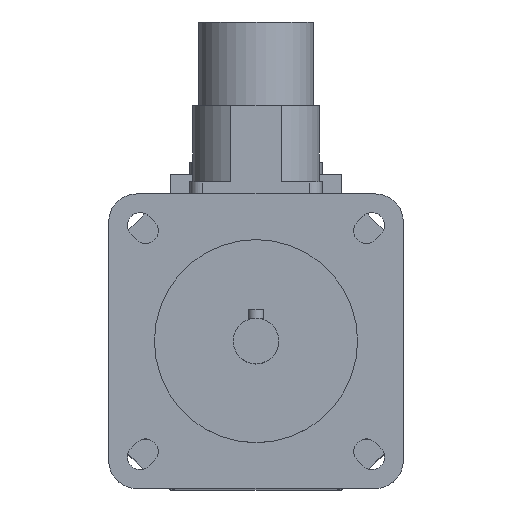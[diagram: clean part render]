
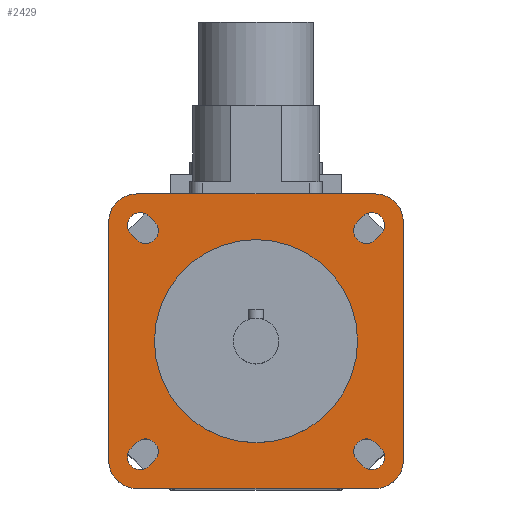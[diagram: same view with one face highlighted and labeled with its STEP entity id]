
A CAD part, top view. The second image highlights one B-rep face of the part: STEP entity #2429.
In plain terms, the highlighted planar face has unit normal (0, 0, 1).
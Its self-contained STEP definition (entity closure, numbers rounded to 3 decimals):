
#28=FACE_BOUND('',#427,.T.);
#29=FACE_BOUND('',#428,.T.);
#30=FACE_BOUND('',#429,.T.);
#31=FACE_BOUND('',#430,.T.);
#32=FACE_BOUND('',#431,.T.);
#47=CIRCLE('',#2525,20.);
#84=CIRCLE('',#2589,2.5);
#88=CIRCLE('',#2596,2.5);
#89=CIRCLE('',#2599,2.5);
#90=CIRCLE('',#2602,2.5);
#100=CIRCLE('',#2617,2.5);
#101=CIRCLE('',#2620,2.5);
#102=CIRCLE('',#2623,2.5);
#103=CIRCLE('',#2626,2.5);
#104=CIRCLE('',#2628,5.5);
#105=CIRCLE('',#2630,5.5);
#106=CIRCLE('',#2632,5.5);
#107=CIRCLE('',#2634,5.5);
#282=FACE_OUTER_BOUND('',#426,.T.);
#426=EDGE_LOOP('',(#1862,#1863,#1864,#1865,#1866,#1867,#1868,#1869));
#427=EDGE_LOOP('',(#1870));
#428=EDGE_LOOP('',(#1871,#1872,#1873,#1874));
#429=EDGE_LOOP('',(#1875,#1876,#1877,#1878));
#430=EDGE_LOOP('',(#1879,#1880,#1881,#1882));
#431=EDGE_LOOP('',(#1883,#1884,#1885,#1886));
#576=LINE('',#3759,#807);
#584=LINE('',#3783,#815);
#588=LINE('',#3793,#819);
#592=LINE('',#3803,#823);
#608=LINE('',#3854,#839);
#610=LINE('',#3860,#841);
#612=LINE('',#3866,#843);
#614=LINE('',#3872,#845);
#623=LINE('',#3900,#854);
#624=LINE('',#3901,#855);
#625=LINE('',#3902,#856);
#626=LINE('',#3903,#857);
#807=VECTOR('',#2980,1.5);
#815=VECTOR('',#3002,1.5);
#819=VECTOR('',#3012,1.5);
#823=VECTOR('',#3022,1.5);
#839=VECTOR('',#3068,1.5);
#841=VECTOR('',#3076,1.5);
#843=VECTOR('',#3084,1.5);
#845=VECTOR('',#3092,1.5);
#854=VECTOR('',#3123,47.);
#855=VECTOR('',#3124,47.);
#856=VECTOR('',#3125,47.);
#857=VECTOR('',#3126,47.);
#992=VERTEX_POINT('',#3580);
#1057=VERTEX_POINT('',#3756);
#1058=VERTEX_POINT('',#3758);
#1059=VERTEX_POINT('',#3762);
#1066=VERTEX_POINT('',#3780);
#1067=VERTEX_POINT('',#3782);
#1068=VERTEX_POINT('',#3786);
#1069=VERTEX_POINT('',#3790);
#1070=VERTEX_POINT('',#3792);
#1071=VERTEX_POINT('',#3796);
#1072=VERTEX_POINT('',#3800);
#1073=VERTEX_POINT('',#3802);
#1074=VERTEX_POINT('',#3806);
#1093=VERTEX_POINT('',#3852);
#1094=VERTEX_POINT('',#3858);
#1095=VERTEX_POINT('',#3864);
#1096=VERTEX_POINT('',#3870);
#1097=VERTEX_POINT('',#3876);
#1098=VERTEX_POINT('',#3878);
#1099=VERTEX_POINT('',#3882);
#1100=VERTEX_POINT('',#3884);
#1101=VERTEX_POINT('',#3888);
#1102=VERTEX_POINT('',#3890);
#1103=VERTEX_POINT('',#3894);
#1104=VERTEX_POINT('',#3896);
#1234=EDGE_CURVE('',#992,#992,#47,.T.);
#1320=EDGE_CURVE('',#1058,#1057,#576,.T.);
#1323=EDGE_CURVE('',#1057,#1059,#84,.T.);
#1332=EDGE_CURVE('',#1067,#1066,#584,.T.);
#1335=EDGE_CURVE('',#1066,#1068,#88,.T.);
#1337=EDGE_CURVE('',#1070,#1069,#588,.T.);
#1340=EDGE_CURVE('',#1069,#1071,#89,.T.);
#1342=EDGE_CURVE('',#1073,#1072,#592,.T.);
#1345=EDGE_CURVE('',#1072,#1074,#90,.T.);
#1368=EDGE_CURVE('',#1071,#1093,#608,.T.);
#1369=EDGE_CURVE('',#1093,#1070,#100,.T.);
#1371=EDGE_CURVE('',#1068,#1094,#610,.T.);
#1372=EDGE_CURVE('',#1094,#1067,#101,.T.);
#1374=EDGE_CURVE('',#1074,#1095,#612,.T.);
#1375=EDGE_CURVE('',#1095,#1073,#102,.T.);
#1377=EDGE_CURVE('',#1059,#1096,#614,.T.);
#1378=EDGE_CURVE('',#1096,#1058,#103,.T.);
#1380=EDGE_CURVE('',#1098,#1097,#104,.T.);
#1383=EDGE_CURVE('',#1100,#1099,#105,.T.);
#1386=EDGE_CURVE('',#1102,#1101,#106,.T.);
#1389=EDGE_CURVE('',#1104,#1103,#107,.T.);
#1391=EDGE_CURVE('',#1097,#1104,#623,.T.);
#1392=EDGE_CURVE('',#1103,#1102,#624,.T.);
#1393=EDGE_CURVE('',#1101,#1100,#625,.T.);
#1394=EDGE_CURVE('',#1099,#1098,#626,.T.);
#1862=ORIENTED_EDGE('',*,*,#1391,.T.);
#1863=ORIENTED_EDGE('',*,*,#1389,.T.);
#1864=ORIENTED_EDGE('',*,*,#1392,.T.);
#1865=ORIENTED_EDGE('',*,*,#1386,.T.);
#1866=ORIENTED_EDGE('',*,*,#1393,.T.);
#1867=ORIENTED_EDGE('',*,*,#1383,.T.);
#1868=ORIENTED_EDGE('',*,*,#1394,.T.);
#1869=ORIENTED_EDGE('',*,*,#1380,.T.);
#1870=ORIENTED_EDGE('',*,*,#1234,.T.);
#1871=ORIENTED_EDGE('',*,*,#1368,.T.);
#1872=ORIENTED_EDGE('',*,*,#1369,.T.);
#1873=ORIENTED_EDGE('',*,*,#1337,.T.);
#1874=ORIENTED_EDGE('',*,*,#1340,.T.);
#1875=ORIENTED_EDGE('',*,*,#1371,.T.);
#1876=ORIENTED_EDGE('',*,*,#1372,.T.);
#1877=ORIENTED_EDGE('',*,*,#1332,.T.);
#1878=ORIENTED_EDGE('',*,*,#1335,.T.);
#1879=ORIENTED_EDGE('',*,*,#1374,.T.);
#1880=ORIENTED_EDGE('',*,*,#1375,.T.);
#1881=ORIENTED_EDGE('',*,*,#1342,.T.);
#1882=ORIENTED_EDGE('',*,*,#1345,.T.);
#1883=ORIENTED_EDGE('',*,*,#1377,.T.);
#1884=ORIENTED_EDGE('',*,*,#1378,.T.);
#1885=ORIENTED_EDGE('',*,*,#1320,.T.);
#1886=ORIENTED_EDGE('',*,*,#1323,.T.);
#2328=PLANE('',#2635);
#2429=ADVANCED_FACE('',(#282,#28,#29,#30,#31,#32),#2328,.T.);
#2525=AXIS2_PLACEMENT_3D('',#3581,#2805,#2806);
#2589=AXIS2_PLACEMENT_3D('',#3764,#2985,#2986);
#2596=AXIS2_PLACEMENT_3D('',#3788,#3007,#3008);
#2599=AXIS2_PLACEMENT_3D('',#3798,#3017,#3018);
#2602=AXIS2_PLACEMENT_3D('',#3808,#3027,#3028);
#2617=AXIS2_PLACEMENT_3D('',#3856,#3071,#3072);
#2620=AXIS2_PLACEMENT_3D('',#3862,#3079,#3080);
#2623=AXIS2_PLACEMENT_3D('',#3868,#3087,#3088);
#2626=AXIS2_PLACEMENT_3D('',#3874,#3095,#3096);
#2628=AXIS2_PLACEMENT_3D('',#3879,#3100,#3101);
#2630=AXIS2_PLACEMENT_3D('',#3885,#3106,#3107);
#2632=AXIS2_PLACEMENT_3D('',#3891,#3112,#3113);
#2634=AXIS2_PLACEMENT_3D('',#3897,#3118,#3119);
#2635=AXIS2_PLACEMENT_3D('',#3899,#3121,#3122);
#2805=DIRECTION('center_axis',(0.,0.,-1.));
#2806=DIRECTION('ref_axis',(-1.,0.,0.));
#2980=DIRECTION('',(-0.707,-0.707,0.));
#2985=DIRECTION('center_axis',(0.,0.,-1.));
#2986=DIRECTION('ref_axis',(0.707,-0.707,0.));
#3002=DIRECTION('',(-0.707,0.707,0.));
#3007=DIRECTION('center_axis',(0.,0.,-1.));
#3008=DIRECTION('ref_axis',(-0.707,-0.707,0.));
#3012=DIRECTION('',(-0.707,-0.707,0.));
#3017=DIRECTION('center_axis',(0.,0.,-1.));
#3018=DIRECTION('ref_axis',(0.707,-0.707,0.));
#3022=DIRECTION('',(-0.707,0.707,0.));
#3027=DIRECTION('center_axis',(0.,0.,-1.));
#3028=DIRECTION('ref_axis',(-0.707,-0.707,0.));
#3068=DIRECTION('',(0.707,0.707,0.));
#3071=DIRECTION('center_axis',(0.,0.,-1.));
#3072=DIRECTION('ref_axis',(-0.707,0.707,0.));
#3076=DIRECTION('',(0.707,-0.707,0.));
#3079=DIRECTION('center_axis',(0.,0.,-1.));
#3080=DIRECTION('ref_axis',(0.707,0.707,0.));
#3084=DIRECTION('',(0.707,-0.707,0.));
#3087=DIRECTION('center_axis',(0.,0.,-1.));
#3088=DIRECTION('ref_axis',(0.707,0.707,0.));
#3092=DIRECTION('',(0.707,0.707,0.));
#3095=DIRECTION('center_axis',(0.,0.,-1.));
#3096=DIRECTION('ref_axis',(-0.707,0.707,0.));
#3100=DIRECTION('center_axis',(0.,0.,1.));
#3101=DIRECTION('ref_axis',(1.,0.,0.));
#3106=DIRECTION('center_axis',(0.,0.,1.));
#3107=DIRECTION('ref_axis',(0.,-1.,0.));
#3112=DIRECTION('center_axis',(0.,0.,1.));
#3113=DIRECTION('ref_axis',(-1.,0.,0.));
#3118=DIRECTION('center_axis',(0.,0.,1.));
#3119=DIRECTION('ref_axis',(0.,1.,0.));
#3121=DIRECTION('center_axis',(0.,0.,1.));
#3122=DIRECTION('ref_axis',(1.,0.,0.));
#3123=DIRECTION('',(-1.,0.,0.));
#3124=DIRECTION('',(0.,-1.,0.));
#3125=DIRECTION('',(1.,0.,0.));
#3126=DIRECTION('',(0.,1.,0.));
#3580=CARTESIAN_POINT('',(20.,0.,113.5));
#3581=CARTESIAN_POINT('Origin',(0.,0.,113.5));
#3756=CARTESIAN_POINT('',(-21.036,-24.572,113.5));
#3758=CARTESIAN_POINT('',(-19.976,-23.511,113.5));
#3759=CARTESIAN_POINT('',(-9.634,-13.17,113.5));
#3762=CARTESIAN_POINT('',(-24.572,-21.036,113.5));
#3764=CARTESIAN_POINT('Origin',(-22.804,-22.804,113.5));
#3780=CARTESIAN_POINT('',(-24.572,21.036,113.5));
#3782=CARTESIAN_POINT('',(-23.511,19.976,113.5));
#3783=CARTESIAN_POINT('',(-13.17,9.634,113.5));
#3786=CARTESIAN_POINT('',(-21.036,24.572,113.5));
#3788=CARTESIAN_POINT('Origin',(-22.804,22.804,113.5));
#3790=CARTESIAN_POINT('',(23.511,19.976,113.5));
#3792=CARTESIAN_POINT('',(24.572,21.036,113.5));
#3793=CARTESIAN_POINT('',(12.64,9.104,113.5));
#3796=CARTESIAN_POINT('',(19.976,23.511,113.5));
#3798=CARTESIAN_POINT('Origin',(21.744,21.744,113.5));
#3800=CARTESIAN_POINT('',(19.976,-23.511,113.5));
#3802=CARTESIAN_POINT('',(21.036,-24.572,113.5));
#3803=CARTESIAN_POINT('',(9.104,-12.64,113.5));
#3806=CARTESIAN_POINT('',(23.511,-19.976,113.5));
#3808=CARTESIAN_POINT('Origin',(21.744,-21.744,113.5));
#3852=CARTESIAN_POINT('',(21.036,24.572,113.5));
#3854=CARTESIAN_POINT('',(9.634,13.17,113.5));
#3856=CARTESIAN_POINT('Origin',(22.804,22.804,113.5));
#3858=CARTESIAN_POINT('',(-19.976,23.511,113.5));
#3860=CARTESIAN_POINT('',(-9.104,12.64,113.5));
#3862=CARTESIAN_POINT('Origin',(-21.744,21.744,113.5));
#3864=CARTESIAN_POINT('',(24.572,-21.036,113.5));
#3866=CARTESIAN_POINT('',(13.17,-9.634,113.5));
#3868=CARTESIAN_POINT('Origin',(22.804,-22.804,113.5));
#3870=CARTESIAN_POINT('',(-23.511,-19.976,113.5));
#3872=CARTESIAN_POINT('',(-12.64,-9.104,113.5));
#3874=CARTESIAN_POINT('Origin',(-21.744,-21.744,113.5));
#3876=CARTESIAN_POINT('',(23.5,29.,113.5));
#3878=CARTESIAN_POINT('',(29.,23.5,113.5));
#3879=CARTESIAN_POINT('Origin',(23.5,23.5,113.5));
#3882=CARTESIAN_POINT('',(29.,-23.5,113.5));
#3884=CARTESIAN_POINT('',(23.5,-29.,113.5));
#3885=CARTESIAN_POINT('Origin',(23.5,-23.5,113.5));
#3888=CARTESIAN_POINT('',(-23.5,-29.,113.5));
#3890=CARTESIAN_POINT('',(-29.,-23.5,113.5));
#3891=CARTESIAN_POINT('Origin',(-23.5,-23.5,113.5));
#3894=CARTESIAN_POINT('',(-29.,23.5,113.5));
#3896=CARTESIAN_POINT('',(-23.5,29.,113.5));
#3897=CARTESIAN_POINT('Origin',(-23.5,23.5,113.5));
#3899=CARTESIAN_POINT('Origin',(0.,0.,
113.5));
#3900=CARTESIAN_POINT('',(23.5,29.,113.5));
#3901=CARTESIAN_POINT('',(-29.,23.5,113.5));
#3902=CARTESIAN_POINT('',(-23.5,-29.,113.5));
#3903=CARTESIAN_POINT('',(29.,-23.5,113.5));
